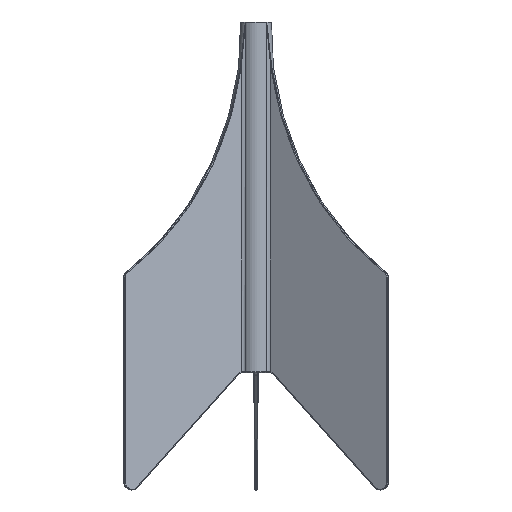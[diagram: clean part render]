
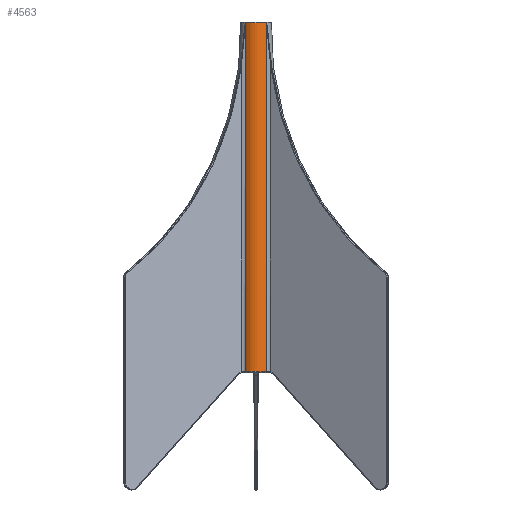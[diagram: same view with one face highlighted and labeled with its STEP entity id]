
A CAD part, front view. The second image highlights one B-rep face of the part: STEP entity #4563.
In plain terms, the highlighted cylindrical face has radius 5.588 mm (diameter 11.176 mm), a partial arc.
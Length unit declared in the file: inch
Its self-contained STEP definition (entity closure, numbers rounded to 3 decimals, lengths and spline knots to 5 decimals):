
#215 = DIRECTION ( 'NONE',  ( 0., 0., -1. ) ) ;
#370 = EDGE_CURVE ( 'NONE', #3434, #3028, #418, .T. ) ;
#418 = CIRCLE ( 'NONE', #3759, 0.22 ) ;
#599 = CYLINDRICAL_SURFACE ( 'NONE', #4366, 0.22 ) ;
#660 = VERTEX_POINT ( 'NONE', #3140 ) ;
#699 = DIRECTION ( 'NONE',  ( 0., 0., 1. ) ) ;
#701 = EDGE_LOOP ( 'NONE', ( #5638, #3052, #5652, #3353 ) ) ;
#813 = CARTESIAN_POINT ( 'NONE',  ( 0., 0., -1.61 ) ) ;
#959 = CARTESIAN_POINT ( 'NONE',  ( 0., 0., 3.24 ) ) ;
#974 = CARTESIAN_POINT ( 'NONE',  ( -0.14862, -0.16221, -1.61 ) ) ;
#1060 = EDGE_CURVE ( 'NONE', #660, #2708, #4271, .T. ) ;
#1116 = VECTOR ( 'NONE', #215, 39.37008 ) ;
#1625 = LINE ( 'NONE', #4826, #2294 ) ;
#1723 = DIRECTION ( 'NONE',  ( -1., 0., 0. ) ) ;
#1748 = DIRECTION ( 'NONE',  ( 0., 0., 1. ) ) ;
#2294 = VECTOR ( 'NONE', #1748, 39.37008 ) ;
#2433 = CARTESIAN_POINT ( 'NONE',  ( 0., 0., 3.25 ) ) ;
#2686 = EDGE_CURVE ( 'NONE', #3028, #660, #1625, .T. ) ;
#2708 = VERTEX_POINT ( 'NONE', #4881 ) ;
#2768 = DIRECTION ( 'NONE',  ( 1., 0., 0. ) ) ;
#3028 = VERTEX_POINT ( 'NONE', #5743 ) ;
#3052 = ORIENTED_EDGE ( 'NONE', *, *, #1060, .T. ) ;
#3140 = CARTESIAN_POINT ( 'NONE',  ( 0.14862, -0.16221, 3.24 ) ) ;
#3259 = DIRECTION ( 'NONE',  ( 0., 0., -1. ) ) ;
#3351 = LINE ( 'NONE', #3805, #1116 ) ;
#3353 = ORIENTED_EDGE ( 'NONE', *, *, #370, .T. ) ;
#3434 = VERTEX_POINT ( 'NONE', #974 ) ;
#3759 = AXIS2_PLACEMENT_3D ( 'NONE', #813, #699, #1723 ) ;
#3805 = CARTESIAN_POINT ( 'NONE',  ( -0.14862, -0.16221, 3.25 ) ) ;
#3949 = DIRECTION ( 'NONE',  ( 0., 0., -1. ) ) ;
#4039 = DIRECTION ( 'NONE',  ( -1., 0., 0. ) ) ;
#4271 = CIRCLE ( 'NONE', #5035, 0.22 ) ;
#4366 = AXIS2_PLACEMENT_3D ( 'NONE', #2433, #3949, #4039 ) ;
#4485 = EDGE_CURVE ( 'NONE', #2708, #3434, #3351, .T. ) ;
#4563 = ADVANCED_FACE ( 'NONE', ( #4696 ), #599, .T. ) ;
#4696 = FACE_OUTER_BOUND ( 'NONE', #701, .T. ) ;
#4826 = CARTESIAN_POINT ( 'NONE',  ( 0.14862, -0.16221, 3.25 ) ) ;
#4881 = CARTESIAN_POINT ( 'NONE',  ( -0.14862, -0.16221, 3.24 ) ) ;
#5035 = AXIS2_PLACEMENT_3D ( 'NONE', #959, #3259, #2768 ) ;
#5638 = ORIENTED_EDGE ( 'NONE', *, *, #2686, .T. ) ;
#5652 = ORIENTED_EDGE ( 'NONE', *, *, #4485, .T. ) ;
#5743 = CARTESIAN_POINT ( 'NONE',  ( 0.14862, -0.16221, -1.61 ) ) ;
